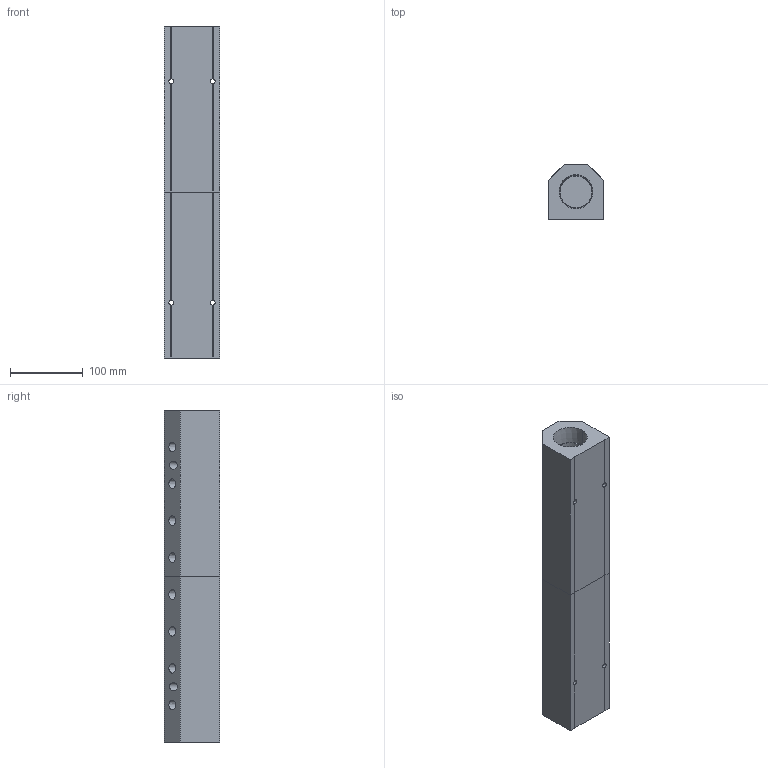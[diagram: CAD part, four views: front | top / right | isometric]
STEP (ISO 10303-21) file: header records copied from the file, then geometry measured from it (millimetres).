
FILE_DESCRIPTION (( 'STEP AP214' ), '1' );
FILE_NAME ('ALM8BD-N4N24-457RB.step', '2022-02-07T07:52:22', ( '' ), ( '' ), 'SwSTEP 2.0', 'SolidWorks 2020', '' );
FILE_SCHEMA (( 'AUTOMOTIVE_DESIGN' ));
Length unit declared in the file: millimetre
Products named in the file (1): ALM8BD-N4N24-457RB
Bounding box: 76.2 x 76.2 x 457 mm (x, y, z)
Volume: 1672970.3 mm3; surface area: 223750.8 mm2
Topology: 2 solids, 2 shells, 374 faces, 982 edges, 652 vertices
Faces by surface type: plane 254, bspline 64, cone 36, cylinder 20
Entity records: 20325 total; most frequent: CARTESIAN_POINT 7961, ORIENTED_EDGE 1964, DIRECTION 1500, EDGE_CURVE 982, VECTOR 734, LINE 734, VERTEX_POINT 652, EDGE_LOOP 454
